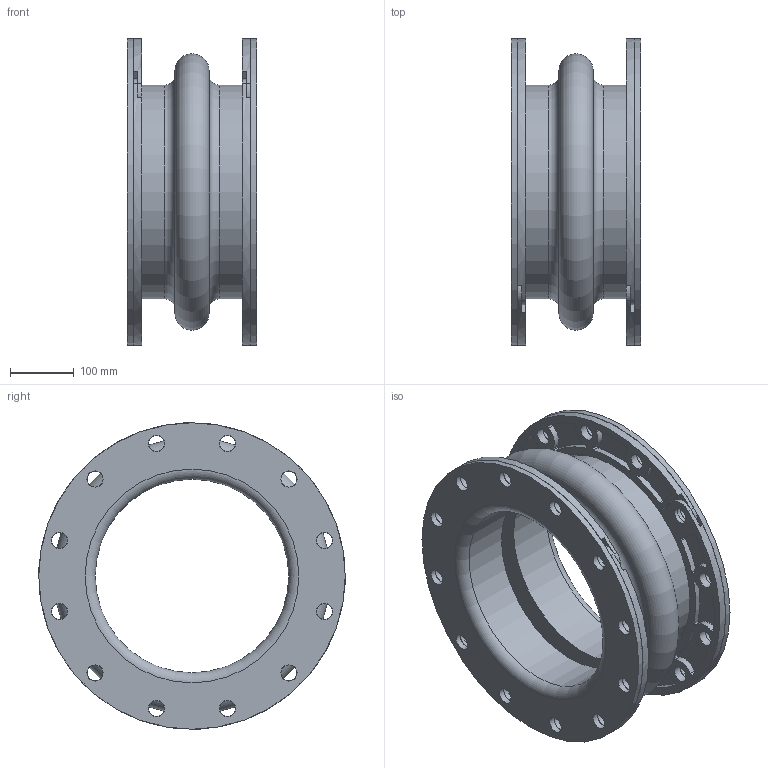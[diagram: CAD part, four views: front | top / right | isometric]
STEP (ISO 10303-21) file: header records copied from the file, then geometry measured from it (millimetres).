
FILE_DESCRIPTION(/* description */ (''),/* implementation_level */ '2;1');
FILE_NAME(/* name */ 'C:\001_Work\Designs\Mercer2014\MQInventor2014\RajR\500 Style\501\New folder\501 12IDx8FF.stp',/* time_stamp */ '2016-03-26T14:25:57-04:00',/* author */ ('rramoutar'),/* organization */ ('Mason Industries Inc.'),/* preprocessor_version */ 'ST-DEVELOPER v15.6',/* originating_system */ 'Autodesk Inventor 2015',/* authorisation */ '');
FILE_SCHEMA (('CONFIG_CONTROL_DESIGN'));
Length unit declared in the file: inch
Products named in the file (1): 501 12IDx8FF
Bounding box: 203.2 x 482.6 x 482.6 mm (x, y, z)
Volume: 7806975.3 mm3; surface area: 1473638.3 mm2
Topology: 3 solids, 3 shells, 434 faces, 1180 edges, 774 vertices
Faces by surface type: cylinder 306, plane 116, torus 8, cone 4
Full cylindrical faces by diameter (mm): 25.4 x52, 304.8 x2, 336.55 x2, 482.6 x2
Entity records: 14248 total; most frequent: DIRECTION 2626, CARTESIAN_POINT 2303, ORIENTED_EDGE 2204, EDGE_CURVE 1102, AXIS2_PLACEMENT_3D 1089, VERTEX_POINT 766, CIRCLE 654, EDGE_LOOP 628
